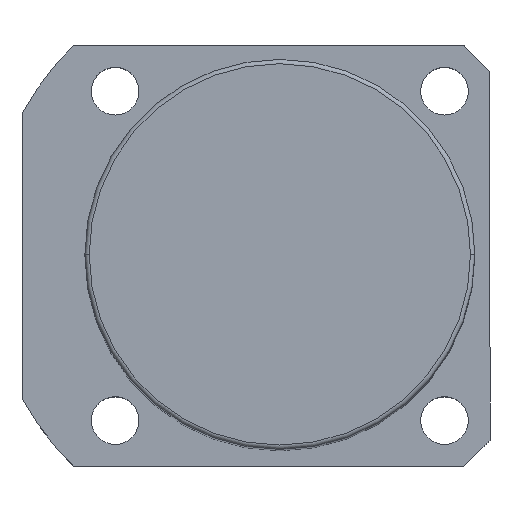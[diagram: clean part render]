
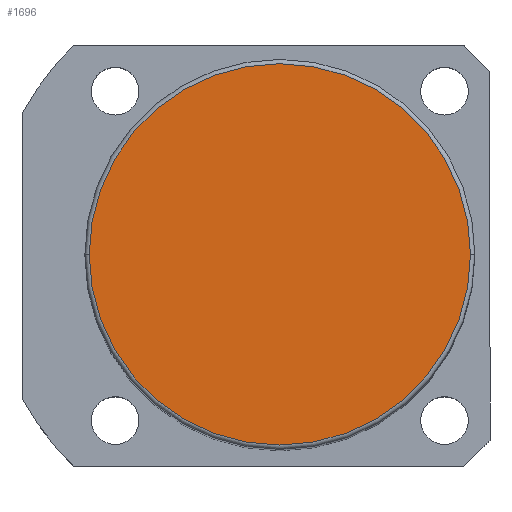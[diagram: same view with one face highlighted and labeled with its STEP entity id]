
A CAD part, top view. The second image highlights one B-rep face of the part: STEP entity #1696.
In plain terms, the highlighted planar face has unit normal (0, 0, 1).
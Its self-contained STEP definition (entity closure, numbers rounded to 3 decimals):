
#35 = EDGE_LOOP ( 'NONE', ( #714, #1118 ) ) ;
#142 = EDGE_CURVE ( 'NONE', #740, #582, #976, .T. ) ;
#183 = CARTESIAN_POINT ( 'NONE',  ( 0., 0., 211.5 ) ) ;
#256 = EDGE_CURVE ( 'NONE', #582, #740, #745, .T. ) ;
#320 = DIRECTION ( 'NONE',  ( 1., 0., 0. ) ) ;
#331 = DIRECTION ( 'NONE',  ( 0., 0., 1. ) ) ;
#344 = AXIS2_PLACEMENT_3D ( 'NONE', #183, #1692, #919 ) ;
#390 = DIRECTION ( 'NONE',  ( 1., 0., 0. ) ) ;
#582 = VERTEX_POINT ( 'NONE', #1303 ) ;
#714 = ORIENTED_EDGE ( 'NONE', *, *, #142, .T. ) ;
#740 = VERTEX_POINT ( 'NONE', #1669 ) ;
#745 = CIRCLE ( 'NONE', #1803, 44. ) ;
#919 = DIRECTION ( 'NONE',  ( 1., 0., 0. ) ) ;
#976 = CIRCLE ( 'NONE', #344, 44. ) ;
#1080 = FACE_OUTER_BOUND ( 'NONE', #35, .T. ) ;
#1095 = CARTESIAN_POINT ( 'NONE',  ( 0., 0., 211.5 ) ) ;
#1118 = ORIENTED_EDGE ( 'NONE', *, *, #256, .T. ) ;
#1265 = PLANE ( 'NONE',  #1920 ) ;
#1303 = CARTESIAN_POINT ( 'NONE',  ( -44., 0., 211.5 ) ) ;
#1463 = DIRECTION ( 'NONE',  ( 0., 0., 1. ) ) ;
#1669 = CARTESIAN_POINT ( 'NONE',  ( 44., 0., 211.5 ) ) ;
#1692 = DIRECTION ( 'NONE',  ( 0., 0., 1. ) ) ;
#1696 = ADVANCED_FACE ( 'NONE', ( #1080 ), #1265, .T. ) ;
#1769 = CARTESIAN_POINT ( 'NONE',  ( 0., 0., 211.5 ) ) ;
#1803 = AXIS2_PLACEMENT_3D ( 'NONE', #1769, #1463, #390 ) ;
#1920 = AXIS2_PLACEMENT_3D ( 'NONE', #1095, #331, #320 ) ;
